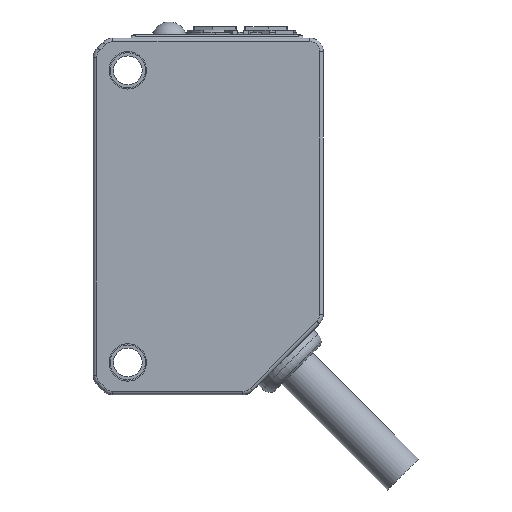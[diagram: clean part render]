
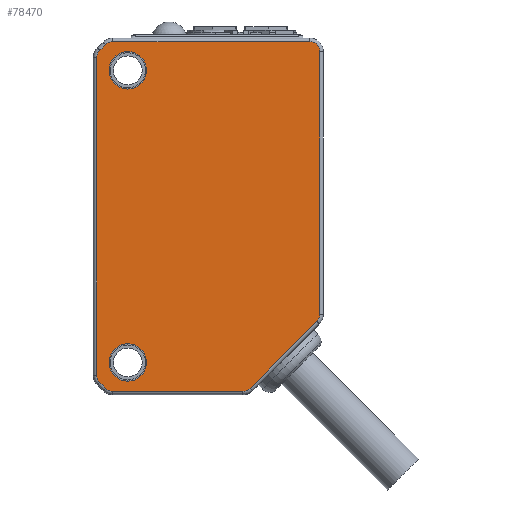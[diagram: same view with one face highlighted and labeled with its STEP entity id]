
A CAD part, front view. The second image highlights one B-rep face of the part: STEP entity #78470.
In plain terms, the highlighted planar face has unit normal (0, -1, 0) as drawn and (0, 0, 1) by its records, which use the part's own axes.
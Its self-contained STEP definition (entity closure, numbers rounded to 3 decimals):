
#5430=CARTESIAN_POINT('',(20.3,80.643,11.));
#5440=VERTEX_POINT('',#5430);
#5630=CARTESIAN_POINT('',(20.564,81.279,11.));
#5640=VERTEX_POINT('',#5630);
#5670=CARTESIAN_POINT('',(21.2,80.643,11.));
#5680=DIRECTION('',(0.,0.,1.));
#5690=DIRECTION('',(1.,0.,-0.));
#5700=AXIS2_PLACEMENT_3D('',#5670,#5680,#5690);
#5710=CIRCLE('',#5700,0.9);
#5720=EDGE_CURVE('',#5640,#5440,#5710,.T.);
#5870=CARTESIAN_POINT('',(21.697,51.64,11.));
#5880=VERTEX_POINT('',#5870);
#6070=CARTESIAN_POINT('',(21.061,51.903,11.));
#6080=VERTEX_POINT('',#6070);
#6110=CARTESIAN_POINT('',(21.697,52.54,11.));
#6120=DIRECTION('',(0.,0.,1.));
#6130=DIRECTION('',(1.,0.,-0.));
#6140=AXIS2_PLACEMENT_3D('',#6110,#6120,#6130);
#6150=CIRCLE('',#6140,0.9);
#6160=EDGE_CURVE('',#6080,#5880,#6150,.T.);
#6310=CARTESIAN_POINT('',(20.3,53.037,11.));
#6320=VERTEX_POINT('',#6310);
#6440=CARTESIAN_POINT('',(20.3,80.643,11.));
#6450=DIRECTION('',(0.,-1.,0.));
#6460=VECTOR('',#6450,1.);
#6470=LINE('',#6440,#6460);
#6480=EDGE_CURVE('',#5440,#6320,#6470,.T.);
#6630=CARTESIAN_POINT('',(39.7,81.14,11.));
#6640=VERTEX_POINT('',#6630);
#6820=CARTESIAN_POINT('',(39.7,58.337,11.));
#6830=VERTEX_POINT('',#6820);
#6860=CARTESIAN_POINT('',(39.7,58.337,11.));
#6870=DIRECTION('',(0.,1.,0.));
#6880=VECTOR('',#6870,1.);
#6890=LINE('',#6860,#6880);
#6900=EDGE_CURVE('',#6830,#6640,#6890,.T.);
#7050=CARTESIAN_POINT('',(33.003,51.64,11.));
#7060=VERTEX_POINT('',#7050);
#7180=CARTESIAN_POINT('',(21.697,51.64,11.));
#7190=DIRECTION('',(1.,0.,0.));
#7200=VECTOR('',#7190,1.);
#7210=LINE('',#7180,#7200);
#7220=EDGE_CURVE('',#5880,#7060,#7210,.T.);
#7370=CARTESIAN_POINT('',(20.564,52.4,11.));
#7380=VERTEX_POINT('',#7370);
#7510=CARTESIAN_POINT('',(21.2,53.037,
11.));
#7520=DIRECTION('',(0.,0.,1.));
#7530=DIRECTION('',(1.,0.,-0.));
#7540=AXIS2_PLACEMENT_3D('',#7510,#7520,#7530);
#7550=CIRCLE('',#7540,0.9);
#7560=EDGE_CURVE('',#6320,#7380,#7550,.T.);
#7800=CARTESIAN_POINT('',(21.061,81.776,11.));
#7810=VERTEX_POINT('',#7800);
#7840=CARTESIAN_POINT('',(21.061,81.776,11.));
#7850=DIRECTION('',(-0.707,-0.707,0.));
#7860=VECTOR('',#7850,1.);
#7870=LINE('',#7840,#7860);
#7880=EDGE_CURVE('',#7810,#5640,#7870,.T.);
#7980=CARTESIAN_POINT('',(38.8,81.14,11.));
#7990=DIRECTION('',(0.,0.,1.));
#8000=DIRECTION('',(1.,0.,-0.));
#8010=AXIS2_PLACEMENT_3D('',#7980,#7990,#8000);
#8020=CIRCLE('',#8010,0.9);
#8030=CARTESIAN_POINT('',(38.8,82.04,11.));
#8040=VERTEX_POINT('',#8030);
#8050=EDGE_CURVE('',#6640,#8040,#8020,.T.);
#8400=CARTESIAN_POINT('',(20.564,52.4,11.));
#8410=DIRECTION('',(0.707,-0.707,0.));
#8420=VECTOR('',#8410,1.);
#8430=LINE('',#8400,#8420);
#8440=EDGE_CURVE('',#7380,#6080,#8430,.T.);
#8690=CARTESIAN_POINT('',(21.697,82.04,11.));
#8700=VERTEX_POINT('',#8690);
#8730=CARTESIAN_POINT('',(21.697,81.14,
11.));
#8740=DIRECTION('',(0.,0.,1.));
#8750=DIRECTION('',(1.,0.,-0.));
#8760=AXIS2_PLACEMENT_3D('',#8730,#8740,#8750);
#8770=CIRCLE('',#8760,0.9);
#8780=EDGE_CURVE('',#8700,#7810,#8770,.T.);
#8960=CARTESIAN_POINT('',(38.8,82.04,11.));
#8970=DIRECTION('',(-1.,0.,0.));
#8980=VECTOR('',#8970,1.);
#8990=LINE('',#8960,#8980);
#9000=EDGE_CURVE('',#8040,#8700,#8990,.T.);
#18240=CARTESIAN_POINT('',(24.625,79.54,11.));
#18250=VERTEX_POINT('',#18240);
#18410=CARTESIAN_POINT('',(21.375,79.54,11.));
#18420=VERTEX_POINT('',#18410);
#18450=CARTESIAN_POINT('',(23.,79.54,11.));
#18460=DIRECTION('',(0.,0.,1.));
#18470=DIRECTION('',(1.,0.,0.));
#18480=AXIS2_PLACEMENT_3D('',#18450,#18460,#18470);
#18490=CIRCLE('',#18480,1.625);
#18500=EDGE_CURVE('',#18250,#18420,#18490,.T.);
#19120=CARTESIAN_POINT('',(21.375,54.14,11.));
#19130=VERTEX_POINT('',#19120);
#19160=CARTESIAN_POINT('',(23.,54.14,11.));
#19170=DIRECTION('',(0.,0.,1.));
#19180=DIRECTION('',(1.,0.,0.));
#19190=AXIS2_PLACEMENT_3D('',#19160,#19170,#19180);
#19200=CIRCLE('',#19190,1.625);
#19210=CARTESIAN_POINT('',(24.625,54.14,11.));
#19220=VERTEX_POINT('',#19210);
#19230=EDGE_CURVE('',#19220,#19130,#19200,.T.);
#49050=CARTESIAN_POINT('',(33.003,52.54,11.));
#49060=DIRECTION('',(0.,0.,-1.));
#49070=DIRECTION('',(-1.,0.,-0.));
#49080=AXIS2_PLACEMENT_3D('',#49050,#49060,#49070);
#49090=CIRCLE('',#49080,0.9);
#49100=CARTESIAN_POINT('',(33.639,51.903,11.));
#49110=VERTEX_POINT('',#49100);
#49120=EDGE_CURVE('',#49110,#7060,#49090,.T.);
#49760=CARTESIAN_POINT('',(39.436,57.7,11.));
#49770=VERTEX_POINT('',#49760);
#49800=CARTESIAN_POINT('',(38.8,58.337,11.));
#49810=DIRECTION('',(0.,0.,1.));
#49820=DIRECTION('',(1.,0.,-0.));
#49830=AXIS2_PLACEMENT_3D('',#49800,#49810,#49820);
#49840=CIRCLE('',#49830,0.9);
#49850=EDGE_CURVE('',#49770,#6830,#49840,.T.);
#54580=CARTESIAN_POINT('',(39.436,57.7,11.));
#54590=DIRECTION('',(-0.707,-0.707,0.));
#54600=VECTOR('',#54590,1.);
#54610=LINE('',#54580,#54600);
#54620=EDGE_CURVE('',#49770,#49110,#54610,.T.);
#78160=CARTESIAN_POINT('',(19.815,50.88,11.));
#78170=DIRECTION('',(0.,0.,1.));
#78180=DIRECTION('',(1.,0.,-0.));
#78190=AXIS2_PLACEMENT_3D('',#78160,#78170,#78180);
#78200=PLANE('',#78190);
#78210=ORIENTED_EDGE('',*,*,#7880,.T.);
#78220=ORIENTED_EDGE('',*,*,#8780,.T.);
#78230=ORIENTED_EDGE('',*,*,#9000,.T.);
#78240=ORIENTED_EDGE('',*,*,#8050,.T.);
#78250=ORIENTED_EDGE('',*,*,#6900,.T.);
#78260=ORIENTED_EDGE('',*,*,#49850,.T.);
#78270=ORIENTED_EDGE('',*,*,#54620,.F.);
#78280=ORIENTED_EDGE('',*,*,#49120,.F.);
#78290=ORIENTED_EDGE('',*,*,#7220,.T.);
#78300=ORIENTED_EDGE('',*,*,#6160,.T.);
#78310=ORIENTED_EDGE('',*,*,#8440,.T.);
#78320=ORIENTED_EDGE('',*,*,#7560,.T.);
#78330=ORIENTED_EDGE('',*,*,#6480,.T.);
#78340=ORIENTED_EDGE('',*,*,#5720,.T.);
#78350=EDGE_LOOP('',(#78340,#78330,#78320,#78310,#78300,#78290,#78280,
#78270,#78260,#78250,#78240,#78230,#78220,#78210));
#78360=FACE_OUTER_BOUND('',#78350,.T.);
#78370=EDGE_CURVE('',#19130,#19220,#19200,.T.);
#78380=ORIENTED_EDGE('',*,*,#78370,.F.);
#78390=ORIENTED_EDGE('',*,*,#19230,.F.);
#78400=EDGE_LOOP('',(#78390,#78380));
#78410=FACE_BOUND('',#78400,.T.);
#78420=EDGE_CURVE('',#18420,#18250,#18490,.T.);
#78430=ORIENTED_EDGE('',*,*,#78420,.F.);
#78440=ORIENTED_EDGE('',*,*,#18500,.F.);
#78450=EDGE_LOOP('',(#78440,#78430));
#78460=FACE_BOUND('',#78450,.T.);
#78470=ADVANCED_FACE('',(#78360,#78410,#78460),#78200,.T.);
